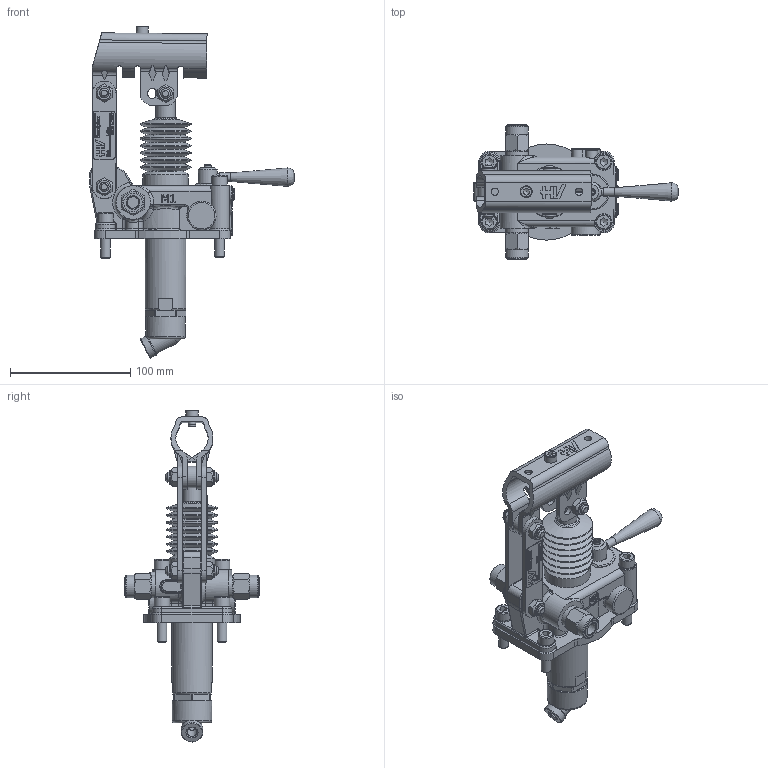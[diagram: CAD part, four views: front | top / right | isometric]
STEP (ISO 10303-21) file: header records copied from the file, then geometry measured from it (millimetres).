
FILE_DESCRIPTION((''),'2;1');
FILE_NAME('G:\HV_HYDRAULIC\AZIENDA_HV_HYDRAULIC\ARCHIVIO_DISEGNI\5_PRODOTTI_FINITI\1_POMPE_MANUALI\6061_PMDVB_25\6061.0105_PMDVB_25_cc-byAB-s_(HV)\6061.0105.stp','2024-03-07T14:51:08',('christian.scardovi'),(''),'Autodesk Inventor 2013','Autodesk Inventor 2013','');
FILE_SCHEMA(('AUTOMOTIVE_DESIGN { 1 0 10303 214 1 1 1 1 }'));
Length unit declared in the file: millimetre
Products named in the file (1): 6061.0105
Bounding box: 170 x 112 x 276.08 mm (x, y, z)
Volume: 460874.9 mm3; surface area: 129969.9 mm2
Topology: 3 solids, 3 shells, 1693 faces, 4302 edges, 2726 vertices
Faces by surface type: plane 821, cylinder 369, cone 191, bspline 184, torus 115, sphere 13
Full cylindrical faces by diameter (mm): 1.2 x4, 3 x9, 4 x4, 4.917 x13, 5 x10, 6 x8, 6.5 x3, 6.917 x2, 7 x3, 8 x15, 9 x3, 9.2 x1, 10 x14, 10.376 x1, 10.5 x2, 10.917 x4, 11.05 x6, 11.445 x2, 12 x7, 13 x4, 13.2 x1, 14 x4, 14.95 x2, 15.5 x2, 15.9 x2, 16 x5, 17.6 x1, 18 x4, 19 x4, 22 x1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
Entity records: 52844 total; most frequent: CARTESIAN_POINT 14090, ORIENTED_EDGE 7624, DIRECTION 7144, EDGE_CURVE 3812, AXIS2_PLACEMENT_3D 2567, VERTEX_POINT 2567, EDGE_LOOP 2174, VECTOR 2010
